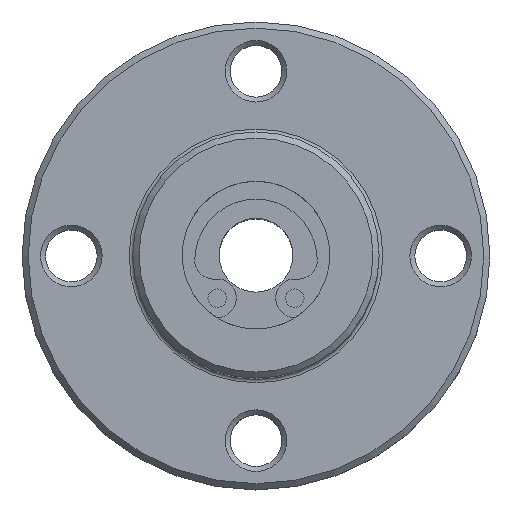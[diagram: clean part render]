
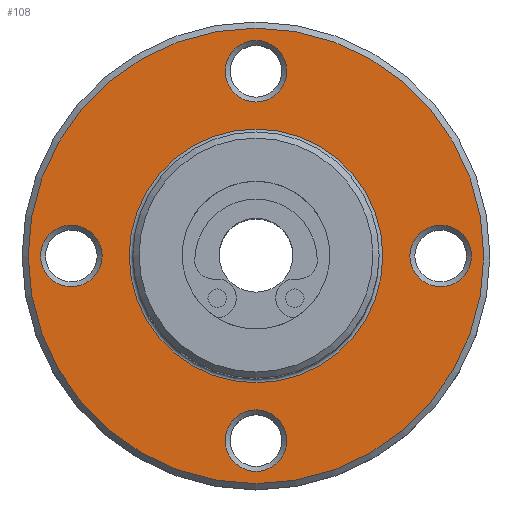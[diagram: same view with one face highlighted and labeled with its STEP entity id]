
A CAD part, top view. The second image highlights one B-rep face of the part: STEP entity #108.
In plain terms, the highlighted planar face has unit normal (0, 0, 1).
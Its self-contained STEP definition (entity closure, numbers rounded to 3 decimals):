
#108=ADVANCED_FACE('',(#218,#219,#220,#221,#222,#223),#224,.T.);
#218=FACE_BOUND('',#374,.T.);
#219=FACE_BOUND('',#375,.T.);
#220=FACE_BOUND('',#376,.T.);
#221=FACE_BOUND('',#377,.T.);
#222=FACE_BOUND('',#378,.T.);
#223=FACE_OUTER_BOUND('',#379,.T.);
#224=PLANE('',#380);
#374=EDGE_LOOP('',(#665));
#375=EDGE_LOOP('',(#666));
#376=EDGE_LOOP('',(#667));
#377=EDGE_LOOP('',(#668));
#378=EDGE_LOOP('',(#669));
#379=EDGE_LOOP('',(#670));
#380=AXIS2_PLACEMENT_3D('',#671,#672,#673);
#665=ORIENTED_EDGE('',*,*,#884,.F.);
#666=ORIENTED_EDGE('',*,*,#885,.F.);
#667=ORIENTED_EDGE('',*,*,#883,.F.);
#668=ORIENTED_EDGE('',*,*,#874,.F.);
#669=ORIENTED_EDGE('',*,*,#886,.F.);
#670=ORIENTED_EDGE('',*,*,#887,.T.);
#671=CARTESIAN_POINT('',(0.0,14.4,7.0));
#672=DIRECTION('',(0.,0.0,1.0));
#673=DIRECTION('',(1.0,0.0,0.));
#874=EDGE_CURVE('',#1025,#1025,#1026,.T.);
#883=EDGE_CURVE('',#1042,#1042,#1043,.T.);
#884=EDGE_CURVE('',#1044,#1044,#1045,.T.);
#885=EDGE_CURVE('',#1046,#1046,#1047,.T.);
#886=EDGE_CURVE('',#1048,#1048,#1049,.T.);
#887=EDGE_CURVE('',#1050,#1050,#1051,.T.);
#1025=VERTEX_POINT('',#1223);
#1026=CIRCLE('',#1224,2.5);
#1042=VERTEX_POINT('',#1242);
#1043=CIRCLE('',#1243,2.5);
#1044=VERTEX_POINT('',#1244);
#1045=CIRCLE('',#1245,2.5);
#1046=VERTEX_POINT('',#1246);
#1047=CIRCLE('',#1247,2.5);
#1048=VERTEX_POINT('',#1248);
#1049=CIRCLE('',#1249,10.3);
#1050=VERTEX_POINT('',#1250);
#1051=CIRCLE('',#1251,18.5);
#1223=CARTESIAN_POINT('',(0.0,-12.5,7.0));
#1224=AXIS2_PLACEMENT_3D('',#1440,#1441,#1442);
#1242=CARTESIAN_POINT('',(0.,12.5,7.0));
#1243=AXIS2_PLACEMENT_3D('',#1463,#1464,#1465);
#1244=CARTESIAN_POINT('',(12.5,0.,7.0));
#1245=AXIS2_PLACEMENT_3D('',#1466,#1467,#1468);
#1246=CARTESIAN_POINT('',(-12.5,0.,7.0));
#1247=AXIS2_PLACEMENT_3D('',#1469,#1470,#1471);
#1248=CARTESIAN_POINT('',(0.0,10.3,7.0));
#1249=AXIS2_PLACEMENT_3D('',#1472,#1473,#1474);
#1250=CARTESIAN_POINT('',(0.0,18.5,7.0));
#1251=AXIS2_PLACEMENT_3D('',#1475,#1476,#1477);
#1440=CARTESIAN_POINT('',(0.0,-15.0,7.0));
#1441=DIRECTION('',(0.,-0.0,1.0));
#1442=DIRECTION('',(0.0,1.0,0.0));
#1463=CARTESIAN_POINT('',(0.,15.0,7.0));
#1464=DIRECTION('',(0.,0.,1.0));
#1465=DIRECTION('',(0.,-1.0,0.));
#1466=CARTESIAN_POINT('',(15.0,0.,7.0));
#1467=DIRECTION('',(0.,0.0,1.0));
#1468=DIRECTION('',(-1.0,0.,0.));
#1469=CARTESIAN_POINT('',(-15.0,0.,7.0));
#1470=DIRECTION('',(0.,0.,1.0));
#1471=DIRECTION('',(1.0,0.,0.));
#1472=CARTESIAN_POINT('',(0.0,0.,7.0));
#1473=DIRECTION('',(0.,-0.0,1.0));
#1474=DIRECTION('',(0.0,1.0,0.0));
#1475=CARTESIAN_POINT('',(0.0,0.,7.0));
#1476=DIRECTION('',(0.,-0.0,1.0));
#1477=DIRECTION('',(0.0,1.0,0.0));
